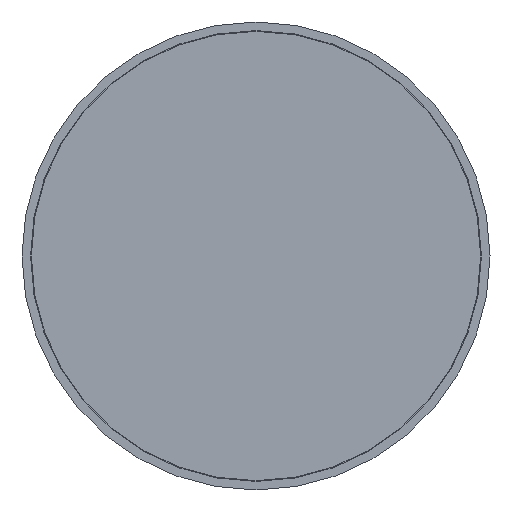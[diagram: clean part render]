
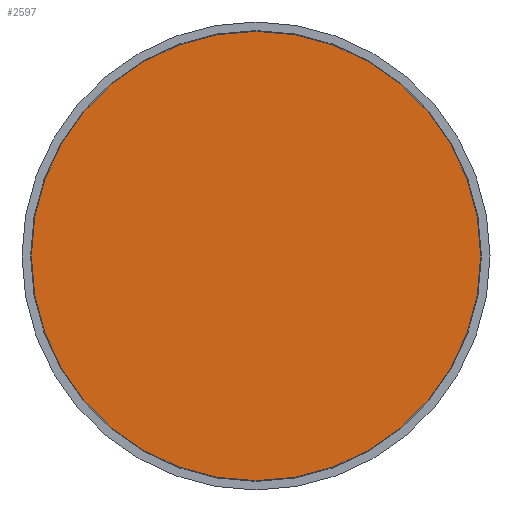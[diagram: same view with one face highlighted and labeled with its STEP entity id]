
A CAD part, top view. The second image highlights one B-rep face of the part: STEP entity #2597.
In plain terms, the highlighted planar face has unit normal (0, 0, 1).
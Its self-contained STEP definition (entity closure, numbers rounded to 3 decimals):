
#187=CIRCLE('',#2796,312.);
#331=FACE_OUTER_BOUND('',#512,.T.);
#512=EDGE_LOOP('',(#1868));
#1147=VERTEX_POINT('',#4051);
#1422=EDGE_CURVE('',#1147,#1147,#187,.T.);
#1868=ORIENTED_EDGE('',*,*,#1422,.F.);
#2483=PLANE('',#2799);
#2597=ADVANCED_FACE('',(#331),#2483,.T.);
#2796=AXIS2_PLACEMENT_3D('',#4052,#3142,#3143);
#2799=AXIS2_PLACEMENT_3D('',#4056,#3148,#3149);
#3142=DIRECTION('center_axis',(0.,0.,-1.));
#3143=DIRECTION('ref_axis',(-1.,0.,0.));
#3148=DIRECTION('center_axis',(0.,0.,1.));
#3149=DIRECTION('ref_axis',(1.,0.,0.));
#4051=CARTESIAN_POINT('',(-347.864,-1729.86,462.968));
#4052=CARTESIAN_POINT('Origin',(-659.864,-1729.86,462.968));
#4056=CARTESIAN_POINT('Origin',(-659.864,-1729.86,462.968));
